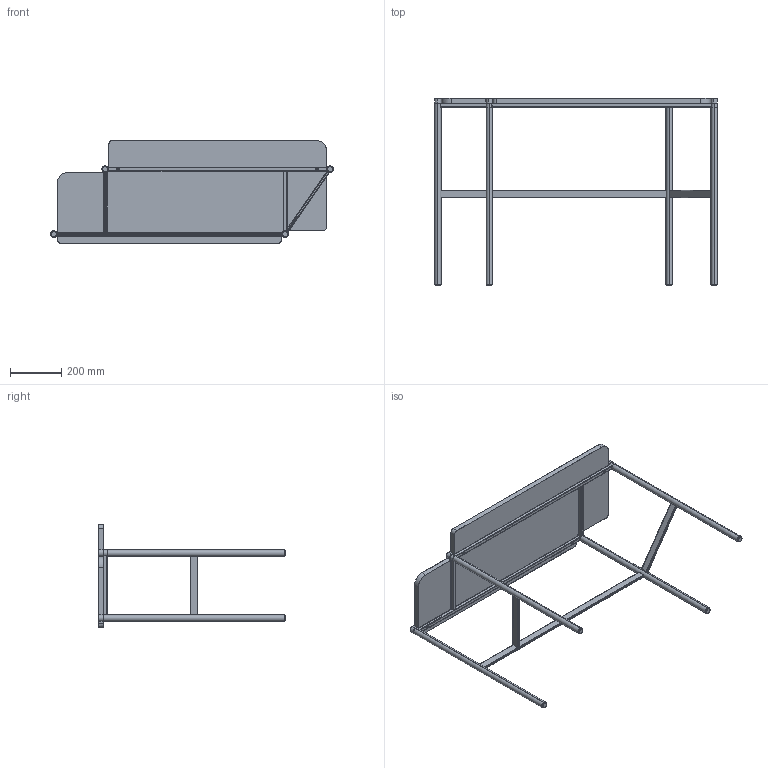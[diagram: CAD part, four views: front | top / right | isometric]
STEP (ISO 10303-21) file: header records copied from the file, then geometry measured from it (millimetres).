
FILE_DESCRIPTION(/* description */ (''),/* implementation_level */ '2;1');
FILE_NAME(/* name */ 'FG52002_WOOD SHELF',/* time_stamp */ '2020-09-29T12:18:00+02:00',/* author */ (''),/* organization */ (''),/* preprocessor_version */ 'ST-DEVELOPER v10',/* originating_system */ '',/* authorisation */ '');
FILE_SCHEMA (('CONFIG_CONTROL_DESIGN'));
Length unit declared in the file: millimetre
Products named in the file (1): 1
Bounding box: 1100.46 x 730 x 400 mm (x, y, z)
Surface area: 1659562.4 mm2 (no closed solid volume)
Topology: 0 solids, 243 shells, 243 faces, 757 edges, 757 vertices
Faces by surface type: bspline 131, plane 112
Entity records: 11249 total; most frequent: CARTESIAN_POINT 6766, ORIENTED_EDGE 757, EDGE_CURVE 757, VERTEX_POINT 757, B_SPLINE_CURVE_WITH_KNOTS 469, EDGE_LOOP 294, SHELL_BASED_SURFACE_MODEL 243, OPEN_SHELL 243
